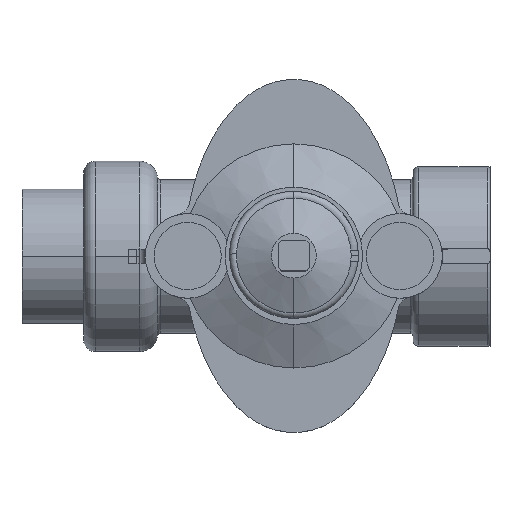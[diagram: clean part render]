
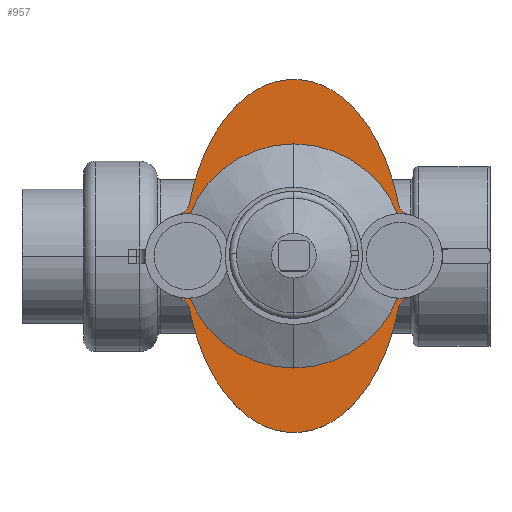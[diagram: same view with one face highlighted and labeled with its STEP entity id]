
A CAD part, top view. The second image highlights one B-rep face of the part: STEP entity #957.
In plain terms, the highlighted planar face has unit normal (0, 0, 1).
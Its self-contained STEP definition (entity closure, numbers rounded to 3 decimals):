
#957=ADVANCED_FACE('',(#1907),#1908,.T.);
#1907=FACE_OUTER_BOUND('',#3121,.T.);
#1908=PLANE('',#3122);
#3121=EDGE_LOOP('',(#4738,#4739,#4740,#4741,#4742,#4743,#4744,#4745,#4746,#4747,#4748,#4749,#4750,#4751,#4752,#4753,#4754,#4755,#4756,#4757,#4758,#4759,#4760,#4761,#4762,#4763));
#3122=AXIS2_PLACEMENT_3D('',#4764,#4765,#4766);
#4738=ORIENTED_EDGE('',*,*,#7081,.F.);
#4739=ORIENTED_EDGE('',*,*,#6980,.F.);
#4740=ORIENTED_EDGE('',*,*,#7082,.F.);
#4741=ORIENTED_EDGE('',*,*,#7083,.F.);
#4742=ORIENTED_EDGE('',*,*,#7084,.F.);
#4743=ORIENTED_EDGE('',*,*,#7085,.F.);
#4744=ORIENTED_EDGE('',*,*,#6985,.F.);
#4745=ORIENTED_EDGE('',*,*,#7086,.F.);
#4746=ORIENTED_EDGE('',*,*,#7087,.F.);
#4747=ORIENTED_EDGE('',*,*,#6646,.F.);
#4748=ORIENTED_EDGE('',*,*,#7088,.F.);
#4749=ORIENTED_EDGE('',*,*,#6895,.F.);
#4750=ORIENTED_EDGE('',*,*,#7077,.F.);
#4751=ORIENTED_EDGE('',*,*,#7089,.F.);
#4752=ORIENTED_EDGE('',*,*,#6820,.F.);
#4753=ORIENTED_EDGE('',*,*,#7090,.F.);
#4754=ORIENTED_EDGE('',*,*,#6881,.F.);
#4755=ORIENTED_EDGE('',*,*,#7091,.F.);
#4756=ORIENTED_EDGE('',*,*,#7092,.F.);
#4757=ORIENTED_EDGE('',*,*,#7093,.F.);
#4758=ORIENTED_EDGE('',*,*,#6673,.F.);
#4759=ORIENTED_EDGE('',*,*,#6559,.F.);
#4760=ORIENTED_EDGE('',*,*,#7094,.F.);
#4761=ORIENTED_EDGE('',*,*,#6573,.F.);
#4762=ORIENTED_EDGE('',*,*,#6780,.F.);
#4763=ORIENTED_EDGE('',*,*,#7095,.F.);
#4764=CARTESIAN_POINT('',(97.0,0.,98.591));
#4765=DIRECTION('',(0.0,0.0,1.0));
#4766=DIRECTION('',(1.0,0.0,0.0));
#6559=EDGE_CURVE('',#7669,#7670,#7671,.T.);
#6573=EDGE_CURVE('',#7693,#7694,#7695,.T.);
#6646=EDGE_CURVE('',#7824,#7825,#7826,.T.);
#6673=EDGE_CURVE('',#7670,#7873,#7874,.T.);
#6780=EDGE_CURVE('',#8052,#7693,#8053,.T.);
#6820=EDGE_CURVE('',#8122,#8123,#8124,.T.);
#6881=EDGE_CURVE('',#8222,#8223,#8224,.T.);
#6895=EDGE_CURVE('',#8243,#8244,#8245,.T.);
#6980=EDGE_CURVE('',#8377,#8378,#8379,.T.);
#6985=EDGE_CURVE('',#8386,#8387,#8388,.T.);
#7077=EDGE_CURVE('',#8521,#8243,#8522,.T.);
#7081=EDGE_CURVE('',#8378,#8527,#8528,.T.);
#7082=EDGE_CURVE('',#8529,#8377,#8530,.T.);
#7083=EDGE_CURVE('',#8531,#8529,#8532,.T.);
#7084=EDGE_CURVE('',#8533,#8531,#8534,.T.);
#7085=EDGE_CURVE('',#8387,#8533,#8535,.T.);
#7086=EDGE_CURVE('',#8536,#8386,#8537,.T.);
#7087=EDGE_CURVE('',#7825,#8536,#8538,.T.);
#7088=EDGE_CURVE('',#8244,#7824,#8539,.T.);
#7089=EDGE_CURVE('',#8123,#8521,#8540,.T.);
#7090=EDGE_CURVE('',#8223,#8122,#8541,.T.);
#7091=EDGE_CURVE('',#8542,#8222,#8543,.T.);
#7092=EDGE_CURVE('',#8544,#8542,#8545,.T.);
#7093=EDGE_CURVE('',#7873,#8544,#8546,.T.);
#7094=EDGE_CURVE('',#7694,#7669,#8547,.T.);
#7095=EDGE_CURVE('',#8527,#8052,#8548,.T.);
#7669=VERTEX_POINT('',#9248);
#7670=VERTEX_POINT('',#9249);
#7671=CIRCLE('',#9250,75.);
#7693=VERTEX_POINT('',#9276);
#7694=VERTEX_POINT('',#9277);
#7695=CIRCLE('',#9278,39.);
#7824=VERTEX_POINT('',#9423);
#7825=VERTEX_POINT('',#9424);
#7826=CIRCLE('',#9425,55.178);
#7873=VERTEX_POINT('',#9481);
#7874=CIRCLE('',#9482,91.763);
#8052=VERTEX_POINT('',#9703);
#8053=CIRCLE('',#9704,26.049);
#8122=VERTEX_POINT('',#9788);
#8123=VERTEX_POINT('',#9789);
#8124=CIRCLE('',#9790,75.);
#8222=VERTEX_POINT('',#9910);
#8223=VERTEX_POINT('',#9911);
#8224=CIRCLE('',#9912,5.);
#8243=VERTEX_POINT('',#9935);
#8244=VERTEX_POINT('',#9936);
#8245=CIRCLE('',#9937,26.049);
#8377=VERTEX_POINT('',#10098);
#8378=VERTEX_POINT('',#10099);
#8379=CIRCLE('',#10100,75.);
#8386=VERTEX_POINT('',#10109);
#8387=VERTEX_POINT('',#10110);
#8388=CIRCLE('',#10111,5.);
#8521=VERTEX_POINT('',#10282);
#8522=CIRCLE('',#10283,39.);
#8527=VERTEX_POINT('',#10289);
#8528=CIRCLE('',#10290,55.178);
#8529=VERTEX_POINT('',#10291);
#8530=CIRCLE('',#10292,91.76);
#8531=VERTEX_POINT('',#10293);
#8532=CIRCLE('',#10294,5.);
#8533=VERTEX_POINT('',#10295);
#8534=CIRCLE('',#10296,15.111);
#8535=CIRCLE('',#10297,15.111);
#8536=VERTEX_POINT('',#10298);
#8537=CIRCLE('',#10299,91.763);
#8538=CIRCLE('',#10300,75.);
#8539=CIRCLE('',#10301,39.);
#8540=CIRCLE('',#10302,55.178);
#8541=CIRCLE('',#10303,91.76);
#8542=VERTEX_POINT('',#10304);
#8543=CIRCLE('',#10305,15.111);
#8544=VERTEX_POINT('',#10306);
#8545=CIRCLE('',#10307,15.111);
#8546=CIRCLE('',#10308,5.);
#8547=CIRCLE('',#10309,55.178);
#8548=CIRCLE('',#10310,39.);
#9248=CARTESIAN_POINT('',(67.315,-40.959,98.591));
#9249=CARTESIAN_POINT('',(61.851,-27.413,98.591));
#9250=AXIS2_PLACEMENT_3D('',#11160,#11161,#11162);
#9276=CARTESIAN_POINT('',(82.166,-58.364,98.591));
#9277=CARTESIAN_POINT('',(74.315,-51.343,98.591));
#9278=AXIS2_PLACEMENT_3D('',#11182,#11183,#11184);
#9423=CARTESIAN_POINT('',(119.685,51.343,98.591));
#9424=CARTESIAN_POINT('',(126.685,40.959,98.591));
#9425=AXIS2_PLACEMENT_3D('',#11333,#11334,#11335);
#9481=CARTESIAN_POINT('',(59.726,-18.702,98.591));
#9482=AXIS2_PLACEMENT_3D('',#11381,#11382,#11383);
#9703=CARTESIAN_POINT('',(111.834,-58.364,98.591));
#9704=AXIS2_PLACEMENT_3D('',#11541,#11542,#11543);
#9788=CARTESIAN_POINT('',(61.851,27.413,98.591));
#9789=CARTESIAN_POINT('',(67.315,40.959,98.591));
#9790=AXIS2_PLACEMENT_3D('',#11607,#11608,#11609);
#9910=CARTESIAN_POINT('',(55.884,14.763,98.591));
#9911=CARTESIAN_POINT('',(59.726,18.702,98.591));
#9912=AXIS2_PLACEMENT_3D('',#11701,#11702,#11703);
#9935=CARTESIAN_POINT('',(82.166,58.364,98.591));
#9936=CARTESIAN_POINT('',(111.834,58.364,98.591));
#9937=AXIS2_PLACEMENT_3D('',#11720,#11721,#11722);
#10098=CARTESIAN_POINT('',(132.149,-27.413,98.591));
#10099=CARTESIAN_POINT('',(126.685,-40.959,98.591));
#10100=AXIS2_PLACEMENT_3D('',#11848,#11849,#11850);
#10109=CARTESIAN_POINT('',(134.274,18.702,98.591));
#10110=CARTESIAN_POINT('',(138.116,14.763,98.591));
#10111=AXIS2_PLACEMENT_3D('',#11856,#11857,#11858);
#10282=CARTESIAN_POINT('',(74.315,51.343,98.591));
#10283=AXIS2_PLACEMENT_3D('',#11987,#11988,#11989);
#10289=CARTESIAN_POINT('',(119.685,-51.343,98.591));
#10290=AXIS2_PLACEMENT_3D('',#11994,#11995,#11996);
#10291=CARTESIAN_POINT('',(134.274,-18.702,98.591));
#10292=AXIS2_PLACEMENT_3D('',#11997,#11998,#11999);
#10293=CARTESIAN_POINT('',(138.116,-14.763,98.591));
#10294=AXIS2_PLACEMENT_3D('',#12000,#12001,#12002);
#10295=CARTESIAN_POINT('',(150.,0.,98.591));
#10296=AXIS2_PLACEMENT_3D('',#12003,#12004,#12005);
#10297=AXIS2_PLACEMENT_3D('',#12006,#12007,#12008);
#10298=CARTESIAN_POINT('',(132.149,27.413,98.591));
#10299=AXIS2_PLACEMENT_3D('',#12009,#12010,#12011);
#10300=AXIS2_PLACEMENT_3D('',#12012,#12013,#12014);
#10301=AXIS2_PLACEMENT_3D('',#12015,#12016,#12017);
#10302=AXIS2_PLACEMENT_3D('',#12018,#12019,#12020);
#10303=AXIS2_PLACEMENT_3D('',#12021,#12022,#12023);
#10304=CARTESIAN_POINT('',(44.,0.,98.591));
#10305=AXIS2_PLACEMENT_3D('',#12024,#12025,#12026);
#10306=CARTESIAN_POINT('',(55.884,-14.763,98.591));
#10307=AXIS2_PLACEMENT_3D('',#12027,#12028,#12029);
#10308=AXIS2_PLACEMENT_3D('',#12030,#12031,#12032);
#10309=AXIS2_PLACEMENT_3D('',#12033,#12034,#12035);
#10310=AXIS2_PLACEMENT_3D('',#12036,#12037,#12038);
#11160=CARTESIAN_POINT('',(133.807,-6.264,98.591));
#11161=DIRECTION('',(0.0,0.0,-1.0));
#11162=DIRECTION('',(1.0,0.0,0.0));
#11182=CARTESIAN_POINT('',(103.998,-26.047,98.591));
#11183=DIRECTION('',(0.0,0.0,-1.0));
#11184=DIRECTION('',(1.0,0.0,0.0));
#11333=CARTESIAN_POINT('',(77.728,15.508,98.591));
#11334=DIRECTION('',(0.0,0.0,-1.0));
#11335=DIRECTION('',(1.0,0.0,0.0));
#11381=CARTESIAN_POINT('',(149.831,-1.336,98.591));
#11382=DIRECTION('',(0.0,0.0,-1.0));
#11383=DIRECTION('',(1.0,0.0,0.0));
#11541=CARTESIAN_POINT('',(97.0,-36.951,98.591));
#11542=DIRECTION('',(0.0,0.0,-1.0));
#11543=DIRECTION('',(1.0,0.0,0.0));
#11607=CARTESIAN_POINT('',(133.807,6.264,98.591));
#11608=DIRECTION('',(0.0,0.0,-1.0));
#11609=DIRECTION('',(1.0,0.0,0.0));
#11701=CARTESIAN_POINT('',(54.816,19.647,98.591));
#11702=DIRECTION('',(0.0,0.0,1.0));
#11703=DIRECTION('',(-1.0,0.0,0.0));
#11720=CARTESIAN_POINT('',(97.0,36.951,98.591));
#11721=DIRECTION('',(0.0,0.0,-1.0));
#11722=DIRECTION('',(1.0,0.0,0.0));
#11848=CARTESIAN_POINT('',(60.193,-6.264,98.591));
#11849=DIRECTION('',(0.0,0.0,-1.0));
#11850=DIRECTION('',(1.0,0.0,0.0));
#11856=CARTESIAN_POINT('',(139.184,19.647,98.591));
#11857=DIRECTION('',(0.0,0.0,1.0));
#11858=DIRECTION('',(-1.0,0.0,0.0));
#11987=CARTESIAN_POINT('',(103.998,26.047,98.591));
#11988=DIRECTION('',(0.0,0.0,-1.0));
#11989=DIRECTION('',(1.0,0.0,0.0));
#11994=CARTESIAN_POINT('',(77.728,-15.508,98.591));
#11995=DIRECTION('',(0.0,0.0,-1.0));
#11996=DIRECTION('',(1.0,0.0,0.0));
#11997=CARTESIAN_POINT('',(44.172,-1.338,98.591));
#11998=DIRECTION('',(0.0,0.0,-1.0));
#11999=DIRECTION('',(1.0,0.0,0.0));
#12000=CARTESIAN_POINT('',(139.184,-19.647,98.591));
#12001=DIRECTION('',(0.0,0.0,1.0));
#12002=DIRECTION('',(-1.0,0.0,0.0));
#12003=CARTESIAN_POINT('',(134.889,0.0,98.591));
#12004=DIRECTION('',(0.0,0.0,-1.0));
#12005=DIRECTION('',(1.0,0.0,0.0));
#12006=CARTESIAN_POINT('',(134.889,0.0,98.591));
#12007=DIRECTION('',(0.0,0.0,-1.0));
#12008=DIRECTION('',(1.0,0.0,0.0));
#12009=CARTESIAN_POINT('',(44.169,1.336,98.591));
#12010=DIRECTION('',(0.0,0.0,-1.0));
#12011=DIRECTION('',(1.0,0.0,0.0));
#12012=CARTESIAN_POINT('',(60.193,6.264,98.591));
#12013=DIRECTION('',(0.0,0.0,-1.0));
#12014=DIRECTION('',(1.0,0.0,0.0));
#12015=CARTESIAN_POINT('',(90.002,26.047,98.591));
#12016=DIRECTION('',(0.0,0.0,-1.0));
#12017=DIRECTION('',(1.0,0.0,0.0));
#12018=CARTESIAN_POINT('',(116.272,15.508,98.591));
#12019=DIRECTION('',(0.0,0.0,-1.0));
#12020=DIRECTION('',(1.0,0.0,0.0));
#12021=CARTESIAN_POINT('',(149.828,1.338,98.591));
#12022=DIRECTION('',(0.0,0.0,-1.0));
#12023=DIRECTION('',(1.0,0.0,0.0));
#12024=CARTESIAN_POINT('',(59.111,0.0,98.591));
#12025=DIRECTION('',(0.0,0.0,-1.0));
#12026=DIRECTION('',(1.0,0.0,0.0));
#12027=CARTESIAN_POINT('',(59.111,0.0,98.591));
#12028=DIRECTION('',(0.0,0.0,-1.0));
#12029=DIRECTION('',(1.0,0.0,0.0));
#12030=CARTESIAN_POINT('',(54.816,-19.647,98.591));
#12031=DIRECTION('',(0.0,0.0,1.0));
#12032=DIRECTION('',(-1.0,0.0,0.0));
#12033=CARTESIAN_POINT('',(116.272,-15.508,98.591));
#12034=DIRECTION('',(0.0,0.0,-1.0));
#12035=DIRECTION('',(1.0,0.0,0.0));
#12036=CARTESIAN_POINT('',(90.002,-26.047,98.591));
#12037=DIRECTION('',(0.0,0.0,-1.0));
#12038=DIRECTION('',(1.0,0.0,0.0));
